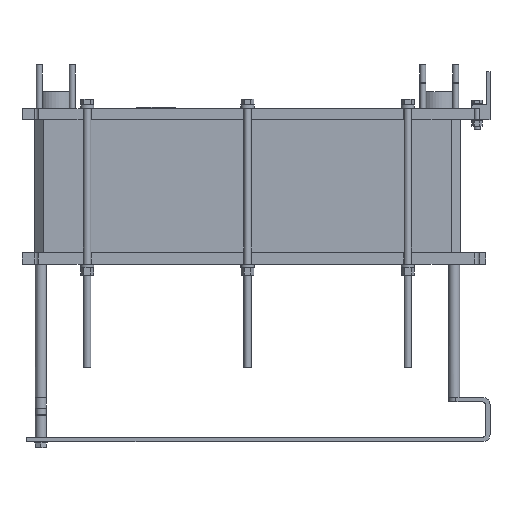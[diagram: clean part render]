
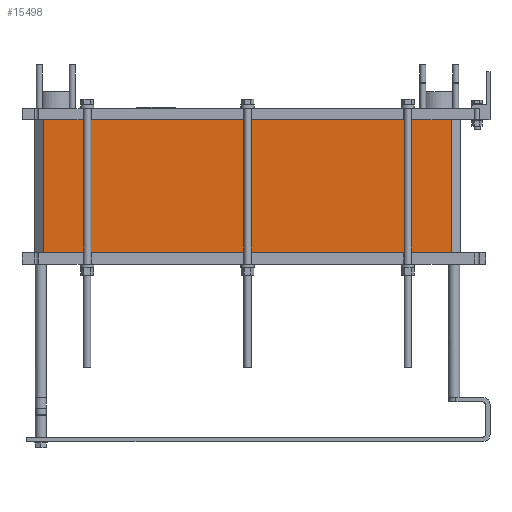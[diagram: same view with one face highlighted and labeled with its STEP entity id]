
A CAD part, left-side view. The second image highlights one B-rep face of the part: STEP entity #15498.
In plain terms, the highlighted planar face has unit normal (-1, 0, 0).
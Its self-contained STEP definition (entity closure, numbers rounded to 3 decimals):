
#1466=LINE('',#25351,#3061);
#1504=LINE('',#25451,#3099);
#1581=LINE('',#25620,#3176);
#1582=LINE('',#25622,#3177);
#3061=VECTOR('',#20768,1100.);
#3099=VECTOR('',#20836,1100.);
#3176=VECTOR('',#21073,360.);
#3177=VECTOR('',#21076,360.);
#3778=PLANE('',#16875);
#4825=FACE_OUTER_BOUND('',#5876,.T.);
#5876=EDGE_LOOP('',(#14021,#14022,#14023,#14024));
#7881=VERTEX_POINT('',#25348);
#7882=VERTEX_POINT('',#25350);
#7928=VERTEX_POINT('',#25448);
#7929=VERTEX_POINT('',#25450);
#9875=EDGE_CURVE('',#7881,#7882,#1466,.T.);
#9923=EDGE_CURVE('',#7929,#7928,#1504,.T.);
#10006=EDGE_CURVE('',#7881,#7929,#1581,.T.);
#10007=EDGE_CURVE('',#7882,#7928,#1582,.T.);
#14021=ORIENTED_EDGE('',*,*,#9923,.T.);
#14022=ORIENTED_EDGE('',*,*,#10007,.F.);
#14023=ORIENTED_EDGE('',*,*,#9875,.F.);
#14024=ORIENTED_EDGE('',*,*,#10006,.T.);
#15498=ADVANCED_FACE('',(#4825),#3778,.T.);
#16875=AXIS2_PLACEMENT_3D('',#25621,#21074,#21075);
#20768=DIRECTION('',(0.,-1.,0.));
#20836=DIRECTION('',(0.,-1.,0.));
#21073=DIRECTION('',(0.,0.,-1.));
#21074=DIRECTION('center_axis',(-1.,0.,0.));
#21075=DIRECTION('ref_axis',(0.,0.,1.));
#21076=DIRECTION('',(0.,0.,-1.));
#25348=CARTESIAN_POINT('',(-125.,550.,0.));
#25350=CARTESIAN_POINT('',(-125.,-550.,0.));
#25351=CARTESIAN_POINT('',(-125.,264.791,0.));
#25448=CARTESIAN_POINT('',(-125.,-550.,-360.));
#25450=CARTESIAN_POINT('',(-125.,550.,-360.));
#25451=CARTESIAN_POINT('',(-125.,575.,-360.));
#25620=CARTESIAN_POINT('',(-125.,550.,0.));
#25621=CARTESIAN_POINT('Origin',(-125.,550.,0.));
#25622=CARTESIAN_POINT('',(-125.,-550.,0.));
